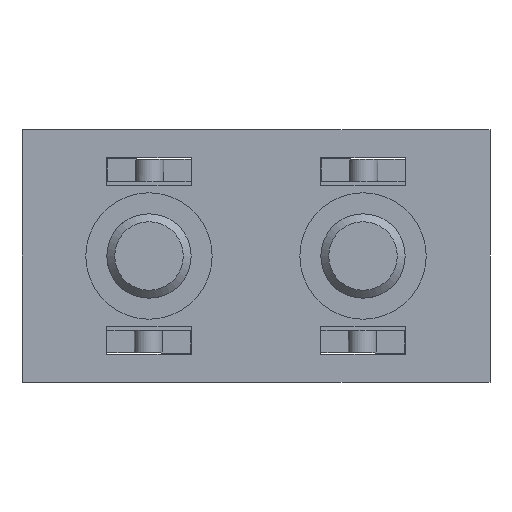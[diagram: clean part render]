
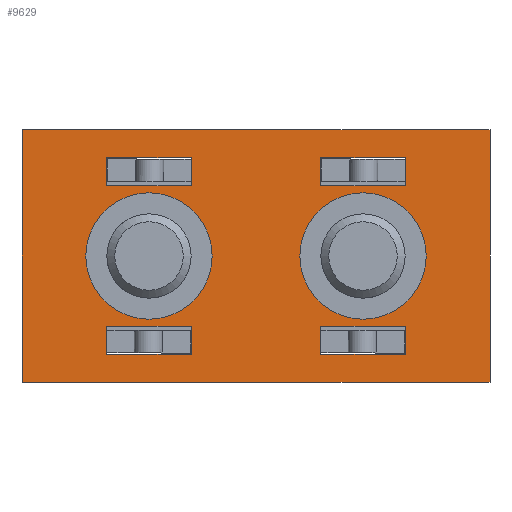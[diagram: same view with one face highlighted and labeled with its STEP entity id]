
A CAD part, front view. The second image highlights one B-rep face of the part: STEP entity #9629.
In plain terms, the highlighted planar face has unit normal (0, -1, 0).
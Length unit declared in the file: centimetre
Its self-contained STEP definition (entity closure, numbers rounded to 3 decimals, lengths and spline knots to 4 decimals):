
#569=VECTOR('',#10928,1.);
#572=VECTOR('',#10932,1.);
#580=VECTOR('',#10950,1.);
#581=VECTOR('',#10951,1.);
#582=VECTOR('',#10952,1.);
#583=VECTOR('',#10955,1.);
#584=VECTOR('',#10956,1.);
#585=VECTOR('',#10957,1.);
#586=VECTOR('',#10958,1.);
#587=VECTOR('',#10959,1.);
#588=VECTOR('',#10960,1.);
#589=VECTOR('',#10961,1.);
#590=VECTOR('',#10964,1.);
#591=VECTOR('',#10965,1.);
#592=VECTOR('',#10966,1.);
#593=VECTOR('',#10967,1.);
#594=VECTOR('',#10968,1.);
#595=VECTOR('',#10969,1.);
#596=VECTOR('',#10970,1.);
#597=VECTOR('',#10971,1.);
#1635=LINE('',#12832,#569);
#1638=LINE('',#12839,#572);
#1646=LINE('',#12865,#580);
#1647=LINE('',#12867,#581);
#1648=LINE('',#12869,#582);
#1649=LINE('',#12872,#583);
#1650=LINE('',#12874,#584);
#1651=LINE('',#12876,#585);
#1652=LINE('',#12877,#586);
#1653=LINE('',#12880,#587);
#1654=LINE('',#12882,#588);
#1655=LINE('',#12884,#589);
#1656=LINE('',#12887,#590);
#1657=LINE('',#12890,#591);
#1658=LINE('',#12892,#592);
#1659=LINE('',#12894,#593);
#1660=LINE('',#12895,#594);
#1661=LINE('',#12898,#595);
#1662=LINE('',#12900,#596);
#1663=LINE('',#12902,#597);
#2644=PLANE('',#10229);
#3074=VERTEX_POINT('',#12831);
#3075=VERTEX_POINT('',#12833);
#3077=VERTEX_POINT('',#12838);
#3078=VERTEX_POINT('',#12840);
#3090=VERTEX_POINT('',#12866);
#3091=VERTEX_POINT('',#12868);
#3092=VERTEX_POINT('',#12871);
#3093=VERTEX_POINT('',#12873);
#3094=VERTEX_POINT('',#12875);
#3095=VERTEX_POINT('',#12878);
#3096=VERTEX_POINT('',#12879);
#3097=VERTEX_POINT('',#12881);
#3098=VERTEX_POINT('',#12883);
#3099=VERTEX_POINT('',#12886);
#3100=VERTEX_POINT('',#12888);
#3101=VERTEX_POINT('',#12889);
#3102=VERTEX_POINT('',#12891);
#3103=VERTEX_POINT('',#12893);
#3104=VERTEX_POINT('',#12896);
#3105=VERTEX_POINT('',#12897);
#3106=VERTEX_POINT('',#12899);
#3107=VERTEX_POINT('',#12901);
#3958=CIRCLE('',#10230,0.225);
#3959=CIRCLE('',#10231,0.225);
#4183=EDGE_CURVE('',#3074,#3075,#1635,.T.);
#4187=EDGE_CURVE('',#3078,#3077,#1638,.T.);
#4202=EDGE_CURVE('',#3075,#3090,#1646,.T.);
#4203=EDGE_CURVE('',#3091,#3074,#1647,.T.);
#4204=EDGE_CURVE('',#3090,#3091,#1648,.T.);
#4205=EDGE_CURVE('',#3092,#3092,#3958,.T.);
#4206=EDGE_CURVE('',#3077,#3093,#1649,.T.);
#4207=EDGE_CURVE('',#3093,#3094,#1650,.T.);
#4208=EDGE_CURVE('',#3094,#3078,#1651,.T.);
#4209=EDGE_CURVE('',#3095,#3096,#1652,.T.);
#4210=EDGE_CURVE('',#3097,#3095,#1653,.T.);
#4211=EDGE_CURVE('',#3098,#3097,#1654,.T.);
#4212=EDGE_CURVE('',#3096,#3098,#1655,.T.);
#4213=EDGE_CURVE('',#3099,#3099,#3959,.T.);
#4214=EDGE_CURVE('',#3100,#3101,#1656,.T.);
#4215=EDGE_CURVE('',#3101,#3102,#1657,.T.);
#4216=EDGE_CURVE('',#3102,#3103,#1658,.T.);
#4217=EDGE_CURVE('',#3103,#3100,#1659,.T.);
#4218=EDGE_CURVE('',#3104,#3105,#1660,.T.);
#4219=EDGE_CURVE('',#3106,#3104,#1661,.T.);
#4220=EDGE_CURVE('',#3107,#3106,#1662,.T.);
#4221=EDGE_CURVE('',#3105,#3107,#1663,.T.);
#5778=ORIENTED_EDGE('',*,*,#4202,.F.);
#5779=ORIENTED_EDGE('',*,*,#4183,.F.);
#5780=ORIENTED_EDGE('',*,*,#4203,.F.);
#5781=ORIENTED_EDGE('',*,*,#4204,.F.);
#5782=ORIENTED_EDGE('',*,*,#4205,.T.);
#5783=ORIENTED_EDGE('',*,*,#4187,.T.);
#5784=ORIENTED_EDGE('',*,*,#4206,.T.);
#5785=ORIENTED_EDGE('',*,*,#4207,.T.);
#5786=ORIENTED_EDGE('',*,*,#4208,.T.);
#5787=ORIENTED_EDGE('',*,*,#4209,.F.);
#5788=ORIENTED_EDGE('',*,*,#4210,.F.);
#5789=ORIENTED_EDGE('',*,*,#4211,.F.);
#5790=ORIENTED_EDGE('',*,*,#4212,.F.);
#5791=ORIENTED_EDGE('',*,*,#4213,.T.);
#5792=ORIENTED_EDGE('',*,*,#4214,.T.);
#5793=ORIENTED_EDGE('',*,*,#4215,.T.);
#5794=ORIENTED_EDGE('',*,*,#4216,.T.);
#5795=ORIENTED_EDGE('',*,*,#4217,.T.);
#5796=ORIENTED_EDGE('',*,*,#4218,.F.);
#5797=ORIENTED_EDGE('',*,*,#4219,.F.);
#5798=ORIENTED_EDGE('',*,*,#4220,.F.);
#5799=ORIENTED_EDGE('',*,*,#4221,.F.);
#8407=EDGE_LOOP('',(#5778,#5779,#5780,#5781));
#8408=EDGE_LOOP('',(#5782));
#8409=EDGE_LOOP('',(#5783,#5784,#5785,#5786));
#8410=EDGE_LOOP('',(#5787,#5788,#5789,#5790));
#8411=EDGE_LOOP('',(#5791));
#8412=EDGE_LOOP('',(#5792,#5793,#5794,#5795));
#8413=EDGE_LOOP('',(#5796,#5797,#5798,#5799));
#9023=FACE_BOUND('',#8407,.T.);
#9024=FACE_BOUND('',#8408,.T.);
#9025=FACE_BOUND('',#8409,.T.);
#9026=FACE_BOUND('',#8410,.T.);
#9027=FACE_BOUND('',#8411,.T.);
#9028=FACE_BOUND('',#8412,.T.);
#9029=FACE_BOUND('',#8413,.T.);
#9629=ADVANCED_FACE('',(#9023,#9024,#9025,#9026,#9027,#9028,#9029),#2644,
 .F.);
#10229=AXIS2_PLACEMENT_3D('',#12864,#10949,$);
#10230=AXIS2_PLACEMENT_3D('',#12870,#10953,#10954);
#10231=AXIS2_PLACEMENT_3D('',#12885,#10962,#10963);
#10928=DIRECTION('',(0.,0.,1.));
#10932=DIRECTION('',(0.,0.,1.));
#10949=DIRECTION('',(0.,1.,0.));
#10950=DIRECTION('',(-1.,0.,0.));
#10951=DIRECTION('',(1.,0.,0.));
#10952=DIRECTION('',(0.,0.,-1.));
#10953=DIRECTION('',(0.,1.,0.));
#10954=DIRECTION('',(0.225,0.,0.));
#10955=DIRECTION('',(1.,0.,0.));
#10956=DIRECTION('',(0.,0.,-1.));
#10957=DIRECTION('',(-1.,0.,0.));
#10958=DIRECTION('',(-1.,0.,0.));
#10959=DIRECTION('',(0.,0.,1.));
#10960=DIRECTION('',(1.,0.,0.));
#10961=DIRECTION('',(0.,0.,-1.));
#10962=DIRECTION('',(0.,1.,0.));
#10963=DIRECTION('',(0.225,0.,0.));
#10964=DIRECTION('',(0.,0.,1.));
#10965=DIRECTION('',(1.,0.,0.));
#10966=DIRECTION('',(0.,0.,-1.));
#10967=DIRECTION('',(-1.,0.,0.));
#10968=DIRECTION('',(0.,0.,1.));
#10969=DIRECTION('',(-1.,0.,0.));
#10970=DIRECTION('',(0.,0.,-1.));
#10971=DIRECTION('',(1.,0.,0.));
#12831=CARTESIAN_POINT('',(1.364,0.,0.25));
#12832=CARTESIAN_POINT('',(1.364,0.,0.25));
#12833=CARTESIAN_POINT('',(1.364,0.,0.35));
#12838=CARTESIAN_POINT('',(1.064,0.,-0.25));
#12839=CARTESIAN_POINT('',(1.064,0.,-0.35));
#12840=CARTESIAN_POINT('',(1.064,0.,-0.35));
#12864=CARTESIAN_POINT('',(0.381,0.,0.));
#12865=CARTESIAN_POINT('',(1.364,0.,0.35));
#12866=CARTESIAN_POINT('',(1.064,0.,0.35));
#12867=CARTESIAN_POINT('',(1.064,0.,0.25));
#12868=CARTESIAN_POINT('',(1.064,0.,0.25));
#12869=CARTESIAN_POINT('',(1.064,0.,0.35));
#12870=CARTESIAN_POINT('',(1.214,0.,0.));
#12871=CARTESIAN_POINT('',(1.439,0.,0.));
#12872=CARTESIAN_POINT('',(1.064,0.,-0.25));
#12873=CARTESIAN_POINT('',(1.364,0.,-0.25));
#12874=CARTESIAN_POINT('',(1.364,0.,-0.25));
#12875=CARTESIAN_POINT('',(1.364,0.,-0.35));
#12876=CARTESIAN_POINT('',(1.364,0.,-0.35));
#12877=CARTESIAN_POINT('',(0.602,0.,0.35));
#12878=CARTESIAN_POINT('',(0.602,0.,0.35));
#12879=CARTESIAN_POINT('',(0.302,0.,0.35));
#12880=CARTESIAN_POINT('',(0.602,0.,0.25));
#12881=CARTESIAN_POINT('',(0.602,0.,0.25));
#12882=CARTESIAN_POINT('',(0.302,0.,0.25));
#12883=CARTESIAN_POINT('',(0.302,0.,0.25));
#12884=CARTESIAN_POINT('',(0.302,0.,0.35));
#12885=CARTESIAN_POINT('',(0.452,0.,0.));
#12886=CARTESIAN_POINT('',(0.677,0.,0.));
#12887=CARTESIAN_POINT('',(0.302,0.,-0.35));
#12888=CARTESIAN_POINT('',(0.302,0.,-0.35));
#12889=CARTESIAN_POINT('',(0.302,0.,-0.25));
#12890=CARTESIAN_POINT('',(0.302,0.,-0.25));
#12891=CARTESIAN_POINT('',(0.602,0.,-0.25));
#12892=CARTESIAN_POINT('',(0.602,0.,-0.25));
#12893=CARTESIAN_POINT('',(0.602,0.,-0.35));
#12894=CARTESIAN_POINT('',(0.602,0.,-0.35));
#12895=CARTESIAN_POINT('',(0.,0.,-0.45));
#12896=CARTESIAN_POINT('',(0.,0.,-0.45));
#12897=CARTESIAN_POINT('',(0.,0.,0.45));
#12898=CARTESIAN_POINT('',(0.762,0.,-0.45));
#12899=CARTESIAN_POINT('',(1.666,0.,-0.45));
#12900=CARTESIAN_POINT('',(1.666,0.,0.45));
#12901=CARTESIAN_POINT('',(1.666,0.,0.45));
#12902=CARTESIAN_POINT('',(0.,0.,0.45));
